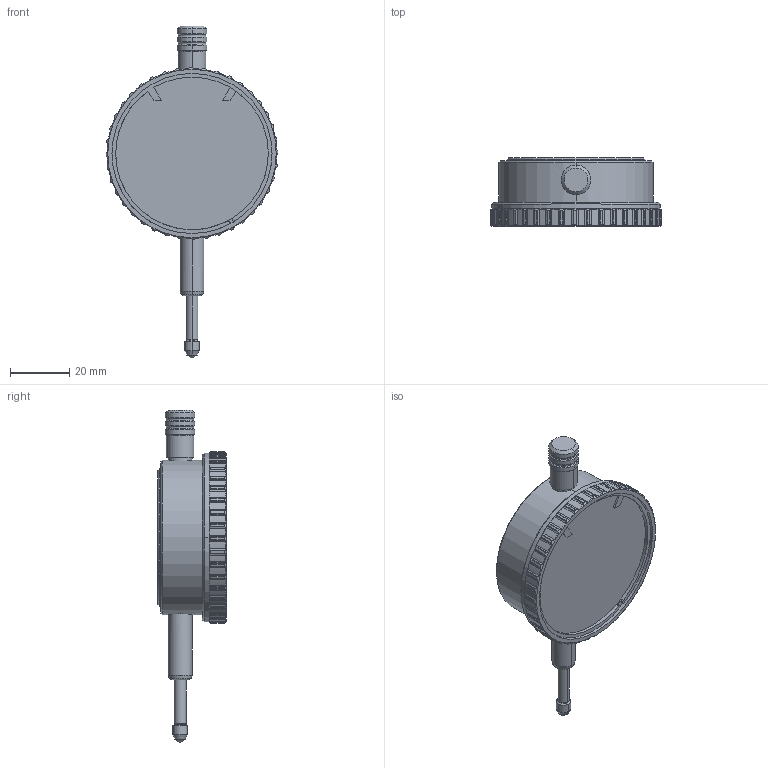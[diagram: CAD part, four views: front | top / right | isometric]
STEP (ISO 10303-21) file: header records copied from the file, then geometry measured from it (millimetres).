
FILE_DESCRIPTION(('STEP AP214'),'1');
FILE_NAME('FM500T.STP','2016-07-13T05:03:44',(' '),(' '),'Spatial InterOp 3D',' ',' ');
FILE_SCHEMA(('automotive_design'));
Length unit declared in the file: millimetre
Products named in the file (1): FM500T
Bounding box: 58 x 23 x 111.99 mm (x, y, z)
Volume: 49727.8 mm3; surface area: 10740.8 mm2
Topology: 1 solids, 1 shells, 383 faces, 1058 edges, 690 vertices
Faces by surface type: cylinder 229, plane 119, cone 34, sphere 1
Entity records: 16611 total; most frequent: CARTESIAN_POINT 4350, ORIENTED_EDGE 2116, DIRECTION 1768, EDGE_CURVE 1058, VERTEX_POINT 690, AXIS2_PLACEMENT_3D 688, EDGE_LOOP 396, LINE 392
